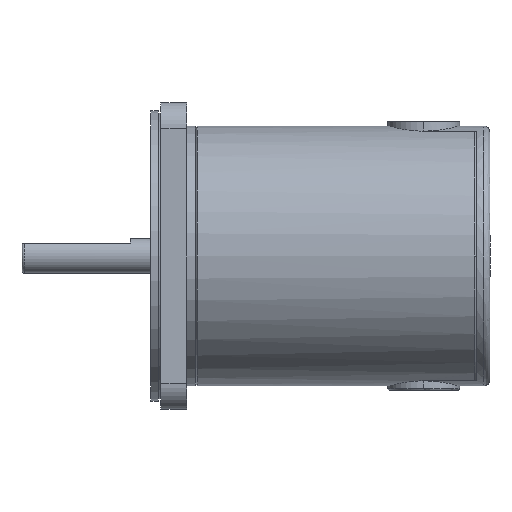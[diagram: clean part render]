
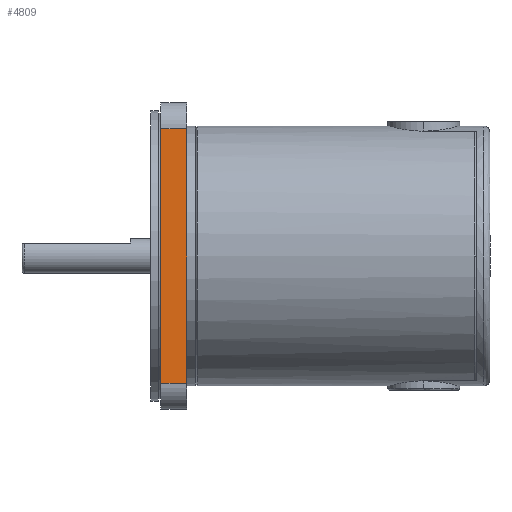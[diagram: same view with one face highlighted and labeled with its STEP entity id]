
A CAD part, left-side view. The second image highlights one B-rep face of the part: STEP entity #4809.
In plain terms, the highlighted planar face has unit normal (-1, 0, 0).
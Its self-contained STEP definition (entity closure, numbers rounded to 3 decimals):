
#17 = CARTESIAN_POINT ( 'NONE',  ( -35.4, 5.5, -29.4 ) ) ;
#51 = VERTEX_POINT ( 'NONE', #539 ) ;
#86 = ORIENTED_EDGE ( 'NONE', *, *, #3199, .F. ) ;
#237 = LINE ( 'NONE', #4765, #2349 ) ;
#517 = EDGE_CURVE ( 'NONE', #2488, #787, #3613, .T. ) ;
#539 = CARTESIAN_POINT ( 'NONE',  ( -35.4, 11.5, 29.4 ) ) ;
#584 = CARTESIAN_POINT ( 'NONE',  ( -35.4, 5.5, 29.4 ) ) ;
#787 = VERTEX_POINT ( 'NONE', #5682 ) ;
#1154 = LINE ( 'NONE', #2793, #2697 ) ;
#1199 = EDGE_CURVE ( 'NONE', #2711, #51, #1803, .T. ) ;
#1259 = DIRECTION ( 'NONE',  ( 0., 1., 0. ) ) ;
#1803 = LINE ( 'NONE', #4044, #4693 ) ;
#1876 = DIRECTION ( 'NONE',  ( 0., 1., 0. ) ) ;
#2117 = PLANE ( 'NONE',  #4413 ) ;
#2349 = VECTOR ( 'NONE', #2443, 1000. ) ;
#2443 = DIRECTION ( 'NONE',  ( 0., 0., -1. ) ) ;
#2488 = VERTEX_POINT ( 'NONE', #17 ) ;
#2661 = FACE_OUTER_BOUND ( 'NONE', #5746, .T. ) ;
#2680 = EDGE_CURVE ( 'NONE', #787, #51, #1154, .T. ) ;
#2697 = VECTOR ( 'NONE', #5603, 1000. ) ;
#2711 = VERTEX_POINT ( 'NONE', #584 ) ;
#2793 = CARTESIAN_POINT ( 'NONE',  ( -35.4, 11.5, 35.4 ) ) ;
#3199 = EDGE_CURVE ( 'NONE', #2711, #2488, #237, .T. ) ;
#3613 = LINE ( 'NONE', #7011, #4417 ) ;
#4044 = CARTESIAN_POINT ( 'NONE',  ( -35.4, 13.8, 29.4 ) ) ;
#4153 = ORIENTED_EDGE ( 'NONE', *, *, #1199, .T. ) ;
#4413 = AXIS2_PLACEMENT_3D ( 'NONE', #7103, #7165, #6116 ) ;
#4417 = VECTOR ( 'NONE', #1876, 1000. ) ;
#4693 = VECTOR ( 'NONE', #1259, 1000. ) ;
#4765 = CARTESIAN_POINT ( 'NONE',  ( -35.4, 5.5, 35.4 ) ) ;
#4809 = ADVANCED_FACE ( 'NONE', ( #2661 ), #2117, .F. ) ;
#5087 = ORIENTED_EDGE ( 'NONE', *, *, #517, .F. ) ;
#5603 = DIRECTION ( 'NONE',  ( 0., 0., 1. ) ) ;
#5682 = CARTESIAN_POINT ( 'NONE',  ( -35.4, 11.5, -29.4 ) ) ;
#5684 = ORIENTED_EDGE ( 'NONE', *, *, #2680, .F. ) ;
#5746 = EDGE_LOOP ( 'NONE', ( #86, #4153, #5684, #5087 ) ) ;
#6116 = DIRECTION ( 'NONE',  ( 0., 0., -1. ) ) ;
#7011 = CARTESIAN_POINT ( 'NONE',  ( -35.4, 13.8, -29.4 ) ) ;
#7103 = CARTESIAN_POINT ( 'NONE',  ( -35.4, 13.8, 35.4 ) ) ;
#7165 = DIRECTION ( 'NONE',  ( 1., 0., 0. ) ) ;
